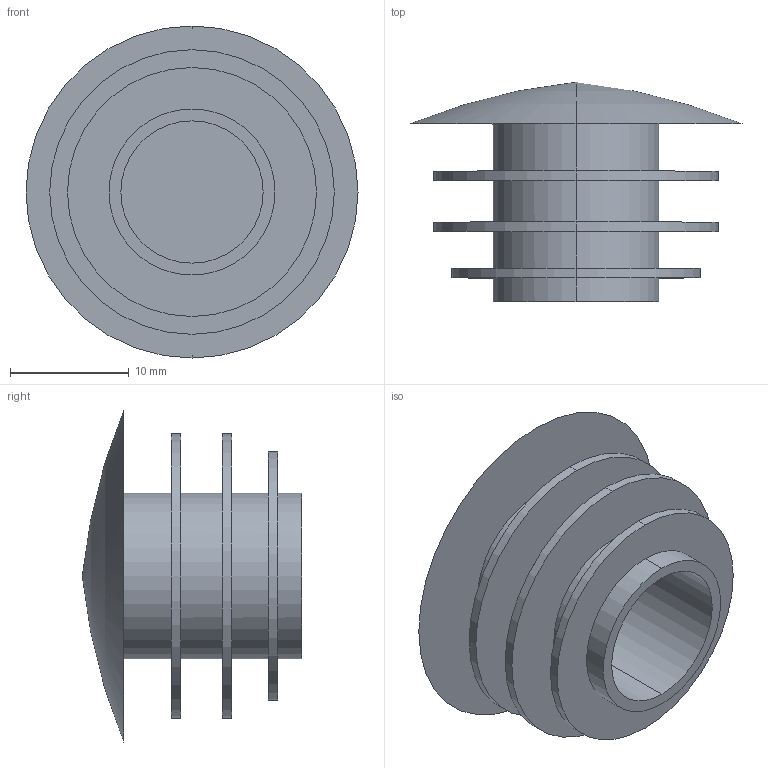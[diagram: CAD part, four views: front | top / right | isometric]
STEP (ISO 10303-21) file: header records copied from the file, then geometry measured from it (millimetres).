
FILE_DESCRIPTION (( 'STEP AP203' ), '1' );
FILE_NAME ('015.300.012.STEP', '2016-10-24T08:56:35', ( '' ), ( '' ), 'SwSTEP 2.0', 'SolidWorks 2016', '' );
FILE_SCHEMA (( 'CONFIG_CONTROL_DESIGN' ));
Length unit declared in the file: millimetre
Products named in the file (1): 015.300.012
Bounding box: 28 x 18.5 x 28 mm (x, y, z)
Volume: 2185.7 mm3; surface area: 4132.1 mm2
Topology: 1 solids, 1 shells, 27 faces, 54 edges, 35 vertices
Faces by surface type: cylinder 16, plane 9, torus 2
Entity records: 787 total; most frequent: DIRECTION 144, CARTESIAN_POINT 115, ORIENTED_EDGE 104, AXIS2_PLACEMENT_3D 64, EDGE_CURVE 52, CIRCLE 36, VERTEX_POINT 35, EDGE_LOOP 35
